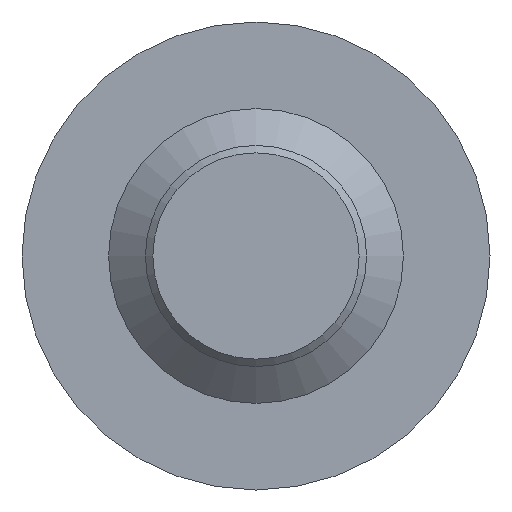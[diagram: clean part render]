
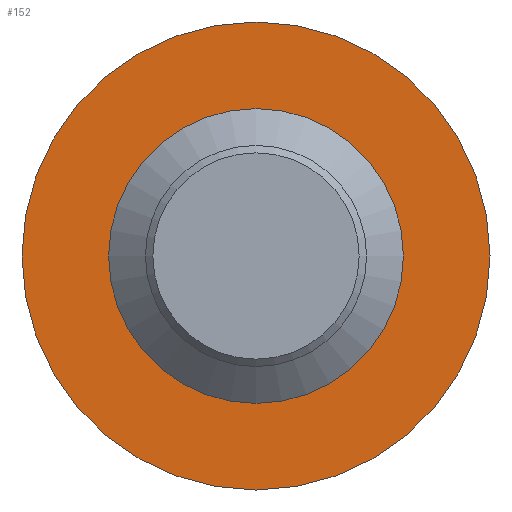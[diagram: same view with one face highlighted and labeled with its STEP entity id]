
A CAD part, front view. The second image highlights one B-rep face of the part: STEP entity #152.
In plain terms, the highlighted planar face has unit normal (0, -1, 0).
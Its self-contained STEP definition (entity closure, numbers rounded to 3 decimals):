
#15=FACE_BOUND('',#57,.T.);
#21=PLANE('',#195);
#45=FACE_OUTER_BOUND('',#56,.T.);
#56=EDGE_LOOP('',(#129));
#57=EDGE_LOOP('',(#130));
#67=CIRCLE('',#186,6.35);
#72=CIRCLE('',#196,3.35);
#79=VERTEX_POINT('',#270);
#84=VERTEX_POINT('',#288);
#93=EDGE_CURVE('',#79,#79,#67,.T.);
#100=EDGE_CURVE('',#84,#84,#72,.T.);
#129=ORIENTED_EDGE('',*,*,#93,.F.);
#130=ORIENTED_EDGE('',*,*,#100,.F.);
#152=ADVANCED_FACE('',(#45,#15),#21,.F.);
#186=AXIS2_PLACEMENT_3D('',#272,#219,#220);
#195=AXIS2_PLACEMENT_3D('',#287,#239,#240);
#196=AXIS2_PLACEMENT_3D('',#289,#241,#242);
#219=DIRECTION('center_axis',(0.,1.,0.));
#220=DIRECTION('ref_axis',(1.,0.,0.));
#239=DIRECTION('center_axis',(0.,1.,0.));
#240=DIRECTION('ref_axis',(0.,0.,1.));
#241=DIRECTION('center_axis',(0.,-1.,0.));
#242=DIRECTION('ref_axis',(1.,0.,0.));
#270=CARTESIAN_POINT('',(-6.35,12.5,0.));
#272=CARTESIAN_POINT('Origin',(0.,12.5,0.));
#287=CARTESIAN_POINT('Origin',(0.,12.5,0.));
#288=CARTESIAN_POINT('',(-3.35,12.5,0.));
#289=CARTESIAN_POINT('Origin',(0.,12.5,0.));
